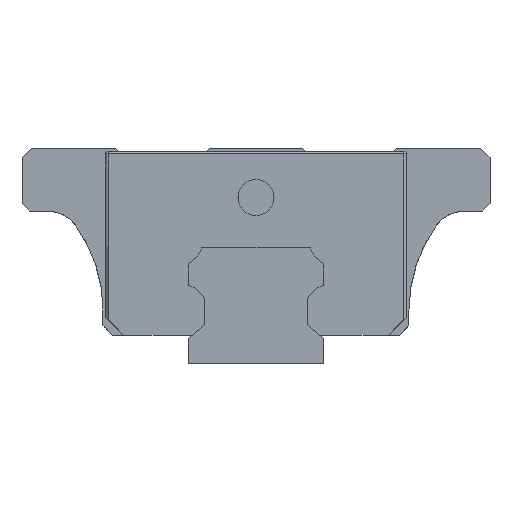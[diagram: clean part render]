
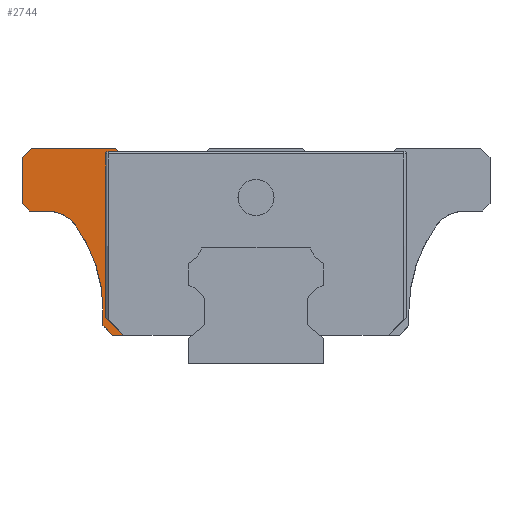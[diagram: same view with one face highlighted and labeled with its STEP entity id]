
A CAD part, left-side view. The second image highlights one B-rep face of the part: STEP entity #2744.
In plain terms, the highlighted planar face has unit normal (-1, 0, 0).
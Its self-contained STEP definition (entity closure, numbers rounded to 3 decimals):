
#277 = ORIENTED_EDGE ( 'NONE', *, *, #6006, .T. ) ;
#301 = CARTESIAN_POINT ( 'NONE',  ( -19.75, 15.6, 24. ) ) ;
#323 = ORIENTED_EDGE ( 'NONE', *, *, #616, .F. ) ;
#444 = CIRCLE ( 'NONE', #3870, 0.26 ) ;
#506 = VERTEX_POINT ( 'NONE', #1256 ) ;
#545 = AXIS2_PLACEMENT_3D ( 'NONE', #6932, #5030, #7430 ) ;
#578 = PLANE ( 'NONE',  #4222 ) ;
#603 = CARTESIAN_POINT ( 'NONE',  ( -19.75, -18.027, 23.595 ) ) ;
#616 = EDGE_CURVE ( 'NONE', #823, #7080, #6845, .T. ) ;
#637 = DIRECTION ( 'NONE',  ( 1., 0., 0. ) ) ;
#656 = LINE ( 'NONE', #1970, #5278 ) ;
#692 = FACE_OUTER_BOUND ( 'NONE', #2850, .T. ) ;
#756 = EDGE_CURVE ( 'NONE', #1369, #7148, #2019, .T. ) ;
#791 = VECTOR ( 'NONE', #5456, 1000. ) ;
#800 = DIRECTION ( 'NONE',  ( 0., 0.707, -0.707 ) ) ;
#823 = VERTEX_POINT ( 'NONE', #2863 ) ;
#887 = CARTESIAN_POINT ( 'NONE',  ( -19.75, 24.95, 24. ) ) ;
#941 = DIRECTION ( 'NONE',  ( 0., -1., 0. ) ) ;
#989 = VERTEX_POINT ( 'NONE', #2151 ) ;
#1256 = CARTESIAN_POINT ( 'NONE',  ( -19.75, 16.702, 5.2 ) ) ;
#1257 = LINE ( 'NONE', #4528, #5031 ) ;
#1313 = VERTEX_POINT ( 'NONE', #4001 ) ;
#1369 = VERTEX_POINT ( 'NONE', #6771 ) ;
#1478 = EDGE_CURVE ( 'NONE', #506, #1313, #1257, .T. ) ;
#1479 = VECTOR ( 'NONE', #1584, 1000. ) ;
#1486 = ORIENTED_EDGE ( 'NONE', *, *, #6388, .T. ) ;
#1488 = VECTOR ( 'NONE', #800, 1000. ) ;
#1516 = ORIENTED_EDGE ( 'NONE', *, *, #2416, .F. ) ;
#1584 = DIRECTION ( 'NONE',  ( 0., -0.707, -0.707 ) ) ;
#1682 = CARTESIAN_POINT ( 'NONE',  ( -19.75, 16.702, 23.335 ) ) ;
#1719 = LINE ( 'NONE', #7922, #2905 ) ;
#1867 = CARTESIAN_POINT ( 'NONE',  ( -19.75, 25.2, 17. ) ) ;
#1878 = CARTESIAN_POINT ( 'NONE',  ( -19.75, 15.95, 3.2 ) ) ;
#1924 = DIRECTION ( 'NONE',  ( 0., 0., 1. ) ) ;
#1970 = CARTESIAN_POINT ( 'NONE',  ( -19.75, 16.702, 23.125 ) ) ;
#2003 = CARTESIAN_POINT ( 'NONE',  ( -19.75, 15.233, 23.563 ) ) ;
#2019 = CIRCLE ( 'NONE', #6619, 4. ) ;
#2045 = CARTESIAN_POINT ( 'NONE',  ( -19.75, 20.004, 15.333 ) ) ;
#2114 = LINE ( 'NONE', #887, #1488 ) ;
#2151 = CARTESIAN_POINT ( 'NONE',  ( -19.75, 26., 17.8 ) ) ;
#2216 = DIRECTION ( 'NONE',  ( 0., 0., -1. ) ) ;
#2369 = CIRCLE ( 'NONE', #545, 16. ) ;
#2416 = EDGE_CURVE ( 'NONE', #4174, #506, #656, .T. ) ;
#2430 = LINE ( 'NONE', #2003, #3350 ) ;
#2437 = VERTEX_POINT ( 'NONE', #3885 ) ;
#2490 = DIRECTION ( 'NONE',  ( 0., 0., -1. ) ) ;
#2503 = EDGE_CURVE ( 'NONE', #6764, #2437, #7807, .T. ) ;
#2558 = CARTESIAN_POINT ( 'NONE',  ( -19.75, 17., 6. ) ) ;
#2562 = EDGE_CURVE ( 'NONE', #7749, #2728, #7879, .T. ) ;
#2618 = LINE ( 'NONE', #8112, #6477 ) ;
#2630 = VECTOR ( 'NONE', #2724, 1000. ) ;
#2724 = DIRECTION ( 'NONE',  ( 0., 1., 0. ) ) ;
#2728 = VERTEX_POINT ( 'NONE', #5563 ) ;
#2744 = ADVANCED_FACE ( 'NONE', ( #692 ), #578, .T. ) ;
#2777 = EDGE_CURVE ( 'NONE', #7148, #7749, #2369, .T. ) ;
#2850 = EDGE_LOOP ( 'NONE', ( #1486, #2875, #277, #5317, #4558, #5930, #3938, #5114, #4460, #7394, #1516, #4718, #323, #8007, #3687 ) ) ;
#2863 = CARTESIAN_POINT ( 'NONE',  ( -19.75, 15.26, 23.595 ) ) ;
#2875 = ORIENTED_EDGE ( 'NONE', *, *, #5871, .T. ) ;
#2905 = VECTOR ( 'NONE', #6011, 1000. ) ;
#2978 = CARTESIAN_POINT ( 'NONE',  ( -19.75, 17.674, 3.2 ) ) ;
#3053 = VECTOR ( 'NONE', #941, 1000. ) ;
#3058 = DIRECTION ( 'NONE',  ( 0., 0., -1. ) ) ;
#3330 = EDGE_CURVE ( 'NONE', #4790, #1313, #4925, .T. ) ;
#3350 = VECTOR ( 'NONE', #4536, 1000. ) ;
#3666 = EDGE_CURVE ( 'NONE', #2728, #4790, #1719, .T. ) ;
#3675 = CARTESIAN_POINT ( 'NONE',  ( -19.75, -6.587, 3.2 ) ) ;
#3687 = ORIENTED_EDGE ( 'NONE', *, *, #2503, .T. ) ;
#3870 = AXIS2_PLACEMENT_3D ( 'NONE', #7610, #637, #5015 ) ;
#3885 = CARTESIAN_POINT ( 'NONE',  ( -19.75, 24.95, 24. ) ) ;
#3903 = VECTOR ( 'NONE', #7208, 1000. ) ;
#3938 = ORIENTED_EDGE ( 'NONE', *, *, #2562, .T. ) ;
#3994 = LINE ( 'NONE', #6527, #1479 ) ;
#4001 = CARTESIAN_POINT ( 'NONE',  ( -19.75, 14.702, 3.2 ) ) ;
#4174 = VERTEX_POINT ( 'NONE', #1682 ) ;
#4207 = CARTESIAN_POINT ( 'NONE',  ( -19.75, 17., 6. ) ) ;
#4222 = AXIS2_PLACEMENT_3D ( 'NONE', #3675, #4336, #1924 ) ;
#4336 = DIRECTION ( 'NONE',  ( -1., 0., 0. ) ) ;
#4460 = ORIENTED_EDGE ( 'NONE', *, *, #3330, .T. ) ;
#4528 = CARTESIAN_POINT ( 'NONE',  ( -19.75, 16.702, 5.2 ) ) ;
#4536 = DIRECTION ( 'NONE',  ( 0., 0.643, 0.766 ) ) ;
#4558 = ORIENTED_EDGE ( 'NONE', *, *, #756, .T. ) ;
#4718 = ORIENTED_EDGE ( 'NONE', *, *, #7500, .T. ) ;
#4790 = VERTEX_POINT ( 'NONE', #1878 ) ;
#4919 = CARTESIAN_POINT ( 'NONE',  ( -19.75, 26., 22.95 ) ) ;
#4925 = LINE ( 'NONE', #2978, #791 ) ;
#5015 = DIRECTION ( 'NONE',  ( 0., 0., 1. ) ) ;
#5030 = DIRECTION ( 'NONE',  ( 1., 0., 0. ) ) ;
#5031 = VECTOR ( 'NONE', #6962, 1000. ) ;
#5034 = VERTEX_POINT ( 'NONE', #1867 ) ;
#5114 = ORIENTED_EDGE ( 'NONE', *, *, #3666, .T. ) ;
#5278 = VECTOR ( 'NONE', #3058, 1000. ) ;
#5317 = ORIENTED_EDGE ( 'NONE', *, *, #5636, .T. ) ;
#5382 = DIRECTION ( 'NONE',  ( 0., 0., 1. ) ) ;
#5456 = DIRECTION ( 'NONE',  ( 0., -1., 0. ) ) ;
#5563 = CARTESIAN_POINT ( 'NONE',  ( -19.75, 17., 4.25 ) ) ;
#5584 = CARTESIAN_POINT ( 'NONE',  ( -19.75, 15.6, 24. ) ) ;
#5636 = EDGE_CURVE ( 'NONE', #5034, #1369, #7151, .T. ) ;
#5871 = EDGE_CURVE ( 'NONE', #7219, #989, #2618, .T. ) ;
#5896 = CARTESIAN_POINT ( 'NONE',  ( -19.75, 25.2, 17. ) ) ;
#5930 = ORIENTED_EDGE ( 'NONE', *, *, #2777, .T. ) ;
#6006 = EDGE_CURVE ( 'NONE', #989, #5034, #3994, .T. ) ;
#6011 = DIRECTION ( 'NONE',  ( 0., -0.707, -0.707 ) ) ;
#6149 = DIRECTION ( 'NONE',  ( 1., 0., 0. ) ) ;
#6388 = EDGE_CURVE ( 'NONE', #2437, #7219, #2114, .T. ) ;
#6477 = VECTOR ( 'NONE', #2490, 1000. ) ;
#6527 = CARTESIAN_POINT ( 'NONE',  ( -19.75, 26., 17.8 ) ) ;
#6570 = VECTOR ( 'NONE', #2216, 1000. ) ;
#6597 = CARTESIAN_POINT ( 'NONE',  ( -19.75, 23.253, 13. ) ) ;
#6619 = AXIS2_PLACEMENT_3D ( 'NONE', #6597, #6149, #5382 ) ;
#6764 = VERTEX_POINT ( 'NONE', #5584 ) ;
#6771 = CARTESIAN_POINT ( 'NONE',  ( -19.75, 23.253, 17. ) ) ;
#6845 = LINE ( 'NONE', #603, #3903 ) ;
#6932 = CARTESIAN_POINT ( 'NONE',  ( -19.75, 33., 6. ) ) ;
#6962 = DIRECTION ( 'NONE',  ( 0., -0.707, -0.707 ) ) ;
#7080 = VERTEX_POINT ( 'NONE', #8003 ) ;
#7148 = VERTEX_POINT ( 'NONE', #2045 ) ;
#7150 = EDGE_CURVE ( 'NONE', #823, #6764, #2430, .T. ) ;
#7151 = LINE ( 'NONE', #5896, #3053 ) ;
#7208 = DIRECTION ( 'NONE',  ( 0., 1., 0. ) ) ;
#7219 = VERTEX_POINT ( 'NONE', #4919 ) ;
#7394 = ORIENTED_EDGE ( 'NONE', *, *, #1478, .F. ) ;
#7430 = DIRECTION ( 'NONE',  ( 0., 0., 1. ) ) ;
#7500 = EDGE_CURVE ( 'NONE', #4174, #7080, #444, .T. ) ;
#7610 = CARTESIAN_POINT ( 'NONE',  ( -19.75, 16.442, 23.335 ) ) ;
#7749 = VERTEX_POINT ( 'NONE', #2558 ) ;
#7807 = LINE ( 'NONE', #301, #2630 ) ;
#7879 = LINE ( 'NONE', #4207, #6570 ) ;
#7922 = CARTESIAN_POINT ( 'NONE',  ( -19.75, 17., 4.25 ) ) ;
#8003 = CARTESIAN_POINT ( 'NONE',  ( -19.75, 16.442, 23.595 ) ) ;
#8007 = ORIENTED_EDGE ( 'NONE', *, *, #7150, .T. ) ;
#8112 = CARTESIAN_POINT ( 'NONE',  ( -19.75, 26., 24. ) ) ;
